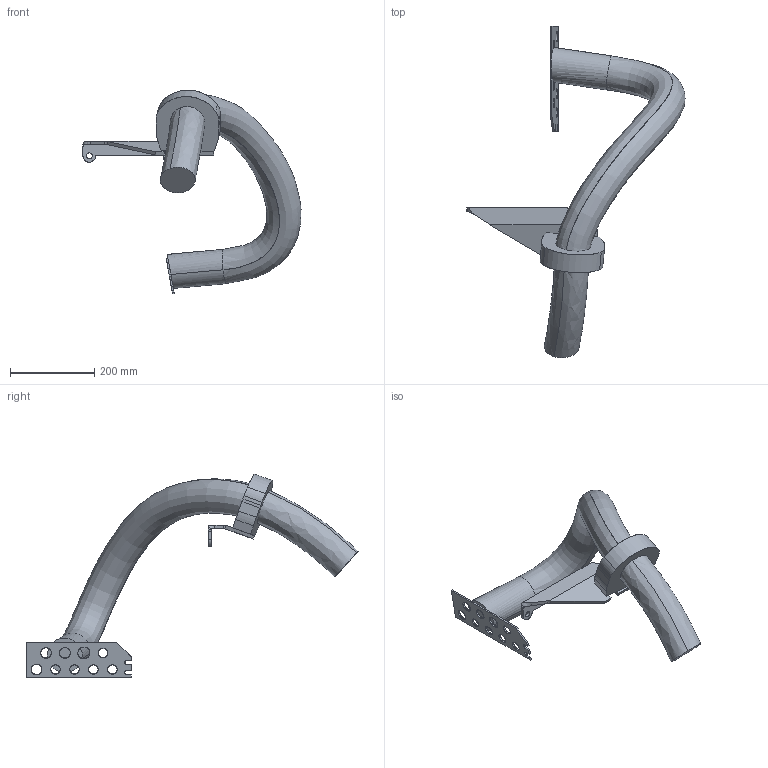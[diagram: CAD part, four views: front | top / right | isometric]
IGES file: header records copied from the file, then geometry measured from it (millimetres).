
Start section: SolidWorks IGES file using analytic representation for surfaces
Global section: file name: B:\DM\Robotics\SEROP_PROJ\Product Development\DevelopmentProjects\HD\3_Design PRMD\4_Struktur SAP o CAD\Lättmodeller\IRB8700-SW6_800-350\IRB8700-SW6_800-350_IRC5_IGES_j\IRB8700-SW6_800-350_IRC5_rev00_LINK3_CABLE2.IGS; native system: SolidWorks 2014; preprocessor: SolidWorks 2014; author: sepehak; date: 150605.110332; units: millimetre
Bounding box: 517.44 x 787.78 x 483.54 mm (x, y, z)
Surface area: 431970.7 mm2 (no closed solid volume)
Topology: 0 solids, 0 shells, 106 faces, 2035 edges, 2035 vertices
Faces by surface type: bspline 67, revolution 39
